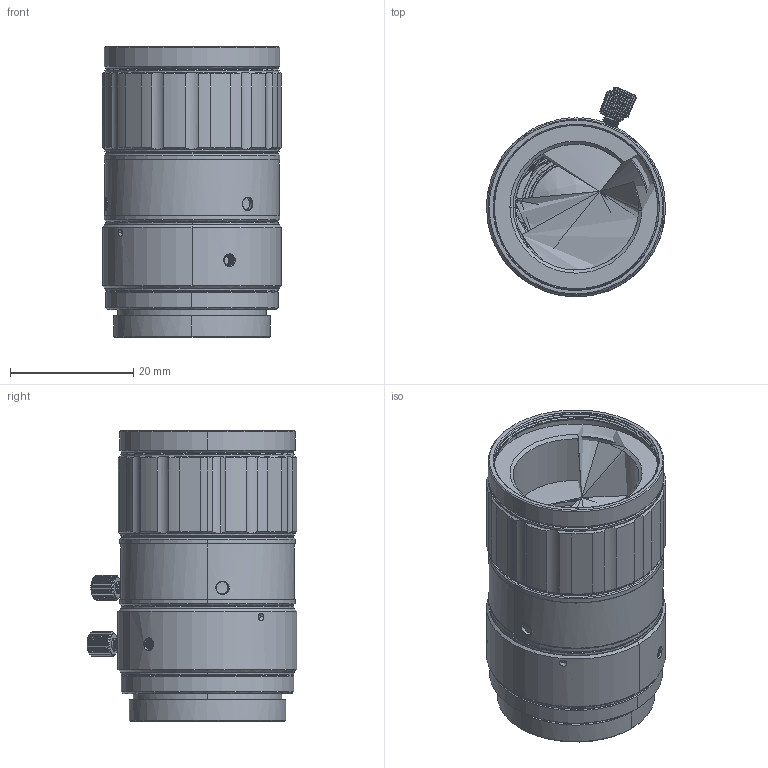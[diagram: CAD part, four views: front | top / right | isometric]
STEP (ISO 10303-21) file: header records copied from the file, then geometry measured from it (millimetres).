
FILE_DESCRIPTION (( 'STEP AP203' ), '1' );
FILE_NAME ('MFA117-S35.STEP', '2025-05-16T00:44:17', ( '' ), ( '' ), 'SwSTEP 2.0', 'SolidWorks 2017', '' );
FILE_SCHEMA (( 'CONFIG_CONTROL_DESIGN' ));
Length unit declared in the file: millimetre
Products named in the file (1): MFA117-S35
Bounding box: 29.01 x 34.01 x 47.12 mm (x, y, z)
Surface area: 14298.6 mm2 (no closed solid volume)
Topology: 0 solids, 23 shells, 1165 faces, 3201 edges, 2083 vertices
Faces by surface type: cylinder 412, plane 325, cone 256, bspline 163, torus 9
Full cylindrical faces by diameter (mm): 1.6 x1
Entity records: 86222 total; most frequent: CARTESIAN_POINT 60321, ORIENTED_EDGE 6359, DIRECTION 3849, EDGE_CURVE 3197, VERTEX_POINT 2084, B_SPLINE_CURVE_WITH_KNOTS 1837, AXIS2_PLACEMENT_3D 1496, EDGE_LOOP 1230
